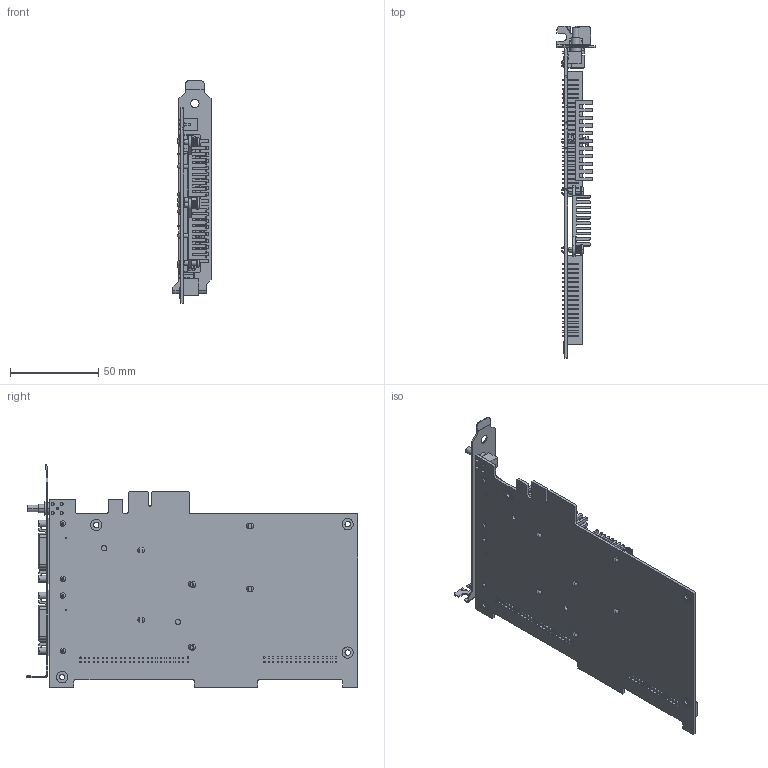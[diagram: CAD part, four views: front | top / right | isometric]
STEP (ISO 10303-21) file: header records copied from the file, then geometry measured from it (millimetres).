
FILE_DESCRIPTION((''),'2;1');
FILE_NAME('CD_PCIE-1429_1430_','2010-05-25T',('jsalinas'),(''),'PRO/ENGINEER BY PARAMETRIC TECHNOLOGY CORPORATION, 2006080','PRO/ENGINEER BY PARAMETRIC TECHNOLOGY CORPORATION, 2006080','');
FILE_SCHEMA(('CONFIG_CONTROL_DESIGN'));
Products named in the file (1): CD_PCIE-1429_1430_
Bounding box: 21.59 x 188.15 x 126.34 mm (x, y, z)
Volume: 62938.5 mm3; surface area: 83377.8 mm2
Topology: 8 solids, 8 shells, 4400 faces, 11807 edges, 7832 vertices
Faces by surface type: plane 3534, cylinder 806, cone 36, torus 16, bspline 8
Entity records: 142541 total; most frequent: CARTESIAN_POINT 30019, ORIENTED_EDGE 23606, DIRECTION 22247, EDGE_CURVE 11803, VECTOR 9991, LINE 9991, VERTEX_POINT 7832, AXIS2_PLACEMENT_3D 6128
